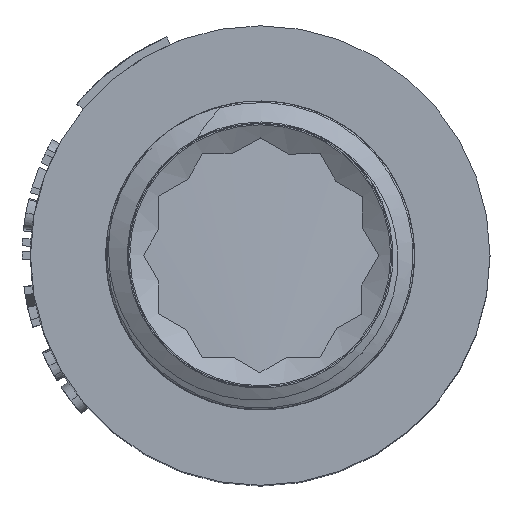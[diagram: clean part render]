
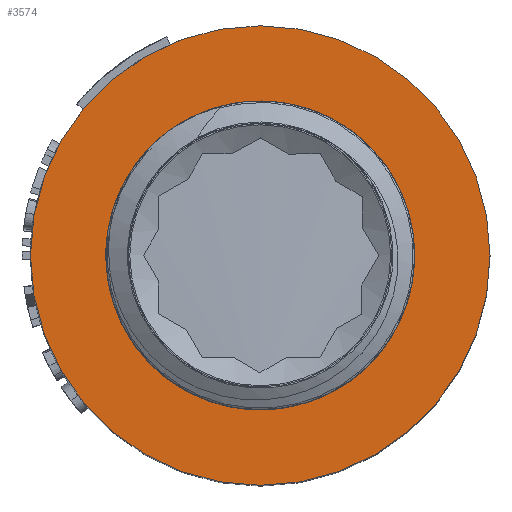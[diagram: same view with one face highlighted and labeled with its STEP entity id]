
A CAD part, top view. The second image highlights one B-rep face of the part: STEP entity #3574.
In plain terms, the highlighted planar face has unit normal (0, 0, 1).
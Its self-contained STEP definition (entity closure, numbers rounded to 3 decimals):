
#81=FACE_BOUND('',#817,.T.);
#443=PLANE('',#3808);
#602=FACE_OUTER_BOUND('',#816,.T.);
#816=EDGE_LOOP('',(#3073,#3074));
#817=EDGE_LOOP('',(#3075,#3076));
#1285=CIRCLE('',#3649,7.825);
#1288=CIRCLE('',#3652,7.825);
#1309=CIRCLE('',#3692,13.65);
#1310=CIRCLE('',#3693,13.65);
#1384=VERTEX_POINT('',#4537);
#1385=VERTEX_POINT('',#4538);
#1432=VERTEX_POINT('',#4785);
#1433=VERTEX_POINT('',#4786);
#1748=EDGE_CURVE('',#1384,#1385,#1285,.T.);
#1752=EDGE_CURVE('',#1385,#1384,#1288,.T.);
#1819=EDGE_CURVE('',#1432,#1433,#1309,.T.);
#1820=EDGE_CURVE('',#1433,#1432,#1310,.T.);
#3073=ORIENTED_EDGE('',*,*,#1819,.T.);
#3074=ORIENTED_EDGE('',*,*,#1820,.T.);
#3075=ORIENTED_EDGE('',*,*,#1748,.F.);
#3076=ORIENTED_EDGE('',*,*,#1752,.F.);
#3574=ADVANCED_FACE('',(#602,#81),#443,.T.);
#3649=AXIS2_PLACEMENT_3D('',#4539,#3879,#3880);
#3652=AXIS2_PLACEMENT_3D('',#4545,#3886,#3887);
#3692=AXIS2_PLACEMENT_3D('',#4787,#4002,#4003);
#3693=AXIS2_PLACEMENT_3D('',#4788,#4004,#4005);
#3808=AXIS2_PLACEMENT_3D('',#7311,#4374,#4375);
#3879=DIRECTION('center_axis',(0.,0.,1.));
#3880=DIRECTION('ref_axis',(1.,0.,0.));
#3886=DIRECTION('center_axis',(0.,0.,1.));
#3887=DIRECTION('ref_axis',(1.,0.,0.));
#4002=DIRECTION('center_axis',(0.,0.,1.));
#4003=DIRECTION('ref_axis',(1.,0.,0.));
#4004=DIRECTION('center_axis',(0.,0.,1.));
#4005=DIRECTION('ref_axis',(1.,0.,0.));
#4374=DIRECTION('center_axis',(0.,0.,1.));
#4375=DIRECTION('ref_axis',(1.,0.,0.));
#4537=CARTESIAN_POINT('',(0.,7.825,-10.));
#4538=CARTESIAN_POINT('',(0.,-7.825,-10.));
#4539=CARTESIAN_POINT('Origin',(0.,0.,-10.));
#4545=CARTESIAN_POINT('Origin',(0.,0.,-10.));
#4785=CARTESIAN_POINT('',(0.,-13.65,-10.));
#4786=CARTESIAN_POINT('',(0.,13.65,-10.));
#4787=CARTESIAN_POINT('Origin',(0.,0.,-10.));
#4788=CARTESIAN_POINT('Origin',(0.,0.,-10.));
#7311=CARTESIAN_POINT('Origin',(0.,-9.17,-10.));
